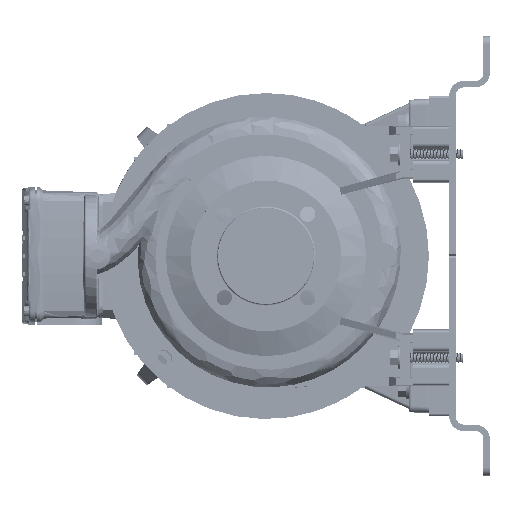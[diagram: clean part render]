
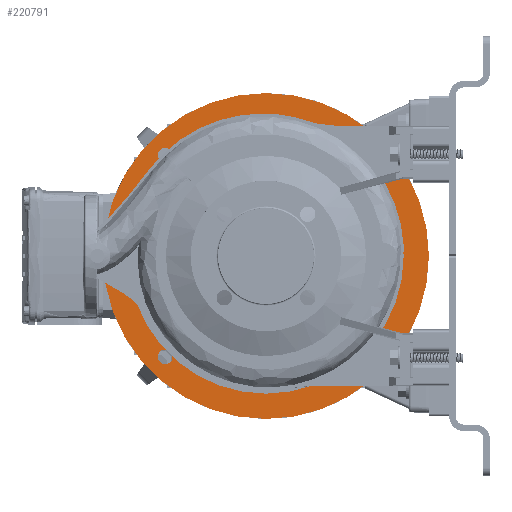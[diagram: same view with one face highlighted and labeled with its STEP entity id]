
A CAD part, left-side view. The second image highlights one B-rep face of the part: STEP entity #220791.
In plain terms, the highlighted planar face has unit normal (-1, 0, 0).
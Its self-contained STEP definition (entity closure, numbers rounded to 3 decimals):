
#1022 = AXIS2_PLACEMENT_3D ( 'NONE', #192139, #116788, #284813 ) ;
#3129 = DIRECTION ( 'NONE',  ( 1., 0., 0. ) ) ;
#4932 = FACE_BOUND ( 'NONE', #30768, .T. ) ;
#5087 = ORIENTED_EDGE ( 'NONE', *, *, #80711, .T. ) ;
#9362 = DIRECTION ( 'NONE',  ( 0., 0., 1. ) ) ;
#12374 = CARTESIAN_POINT ( 'NONE',  ( 211.876, 364.773, 524.102 ) ) ;
#15706 = EDGE_CURVE ( 'NONE', #71451, #69587, #161643, .T. ) ;
#17972 = VERTEX_POINT ( 'NONE', #273223 ) ;
#18508 = DIRECTION ( 'NONE',  ( 0., 0., 1. ) ) ;
#21622 = VERTEX_POINT ( 'NONE', #207039 ) ;
#21660 = DIRECTION ( 'NONE',  ( 1., 0., 0. ) ) ;
#23827 = CIRCLE ( 'NONE', #309884, 152.679 ) ;
#24048 = DIRECTION ( 'NONE',  ( 0., 0., -1. ) ) ;
#27854 = CIRCLE ( 'NONE', #243651, 23.5 ) ;
#30029 = FACE_BOUND ( 'NONE', #100994, .T. ) ;
#30768 = EDGE_LOOP ( 'NONE', ( #137479, #131611 ) ) ;
#36581 = DIRECTION ( 'NONE',  ( 1., 0., 0. ) ) ;
#36872 = DIRECTION ( 'NONE',  ( 0., 0., -1. ) ) ;
#41800 = AXIS2_PLACEMENT_3D ( 'NONE', #305195, #135617, #66327 ) ;
#42110 = DIRECTION ( 'NONE',  ( 0., 0., 1. ) ) ;
#44898 = AXIS2_PLACEMENT_3D ( 'NONE', #286791, #272164, #105580 ) ;
#48770 = AXIS2_PLACEMENT_3D ( 'NONE', #115246, #128454, #85496 ) ;
#53609 = CARTESIAN_POINT ( 'NONE',  ( 211.876, 441.029, 400.358 ) ) ;
#55360 = VERTEX_POINT ( 'NONE', #76317 ) ;
#62270 = EDGE_CURVE ( 'NONE', #103247, #79908, #187471, .T. ) ;
#66327 = DIRECTION ( 'NONE',  ( 0., 0., 1. ) ) ;
#68162 = CARTESIAN_POINT ( 'NONE',  ( 211.876, 241.029, 400.358 ) ) ;
#69587 = VERTEX_POINT ( 'NONE', #79582 ) ;
#70222 = CARTESIAN_POINT ( 'NONE',  ( 211.876, 364.773, 533.102 ) ) ;
#71245 = CARTESIAN_POINT ( 'NONE',  ( 211.876, 117.285, 267.614 ) ) ;
#71451 = VERTEX_POINT ( 'NONE', #90073 ) ;
#76317 = CARTESIAN_POINT ( 'NONE',  ( 211.876, 241.029, 600.358 ) ) ;
#79582 = CARTESIAN_POINT ( 'NONE',  ( 211.876, 241.029, 553.038 ) ) ;
#79908 = VERTEX_POINT ( 'NONE', #210338 ) ;
#80041 = CARTESIAN_POINT ( 'NONE',  ( 211.876, 117.285, 276.614 ) ) ;
#80105 = DIRECTION ( 'NONE',  ( 1., 0., 0. ) ) ;
#80711 = EDGE_CURVE ( 'NONE', #69587, #17972, #23827, .T. ) ;
#84985 = ORIENTED_EDGE ( 'NONE', *, *, #152310, .T. ) ;
#85496 = DIRECTION ( 'NONE',  ( 0., 0., -1. ) ) ;
#86581 = EDGE_CURVE ( 'NONE', #133944, #194053, #191169, .T. ) ;
#90073 = CARTESIAN_POINT ( 'NONE',  ( 211.876, 241.029, 247.679 ) ) ;
#90159 = EDGE_CURVE ( 'NONE', #21622, #71451, #257781, .T. ) ;
#96620 = EDGE_CURVE ( 'NONE', #17972, #21622, #27854, .T. ) ;
#98243 = CARTESIAN_POINT ( 'NONE',  ( 211.876, 117.285, 515.102 ) ) ;
#100994 = EDGE_LOOP ( 'NONE', ( #116116, #84985 ) ) ;
#102083 = DIRECTION ( 'NONE',  ( 0., 0., 1. ) ) ;
#102492 = DIRECTION ( 'NONE',  ( 0., 0., 1. ) ) ;
#103247 = VERTEX_POINT ( 'NONE', #301316 ) ;
#103790 = EDGE_LOOP ( 'NONE', ( #257280, #230078 ) ) ;
#105580 = DIRECTION ( 'NONE',  ( 0., 0., 1. ) ) ;
#107243 = AXIS2_PLACEMENT_3D ( 'NONE', #251867, #36581, #138720 ) ;
#108237 = DIRECTION ( 'NONE',  ( 1., 0., 0. ) ) ;
#109111 = AXIS2_PLACEMENT_3D ( 'NONE', #243550, #80105, #9362 ) ;
#114753 = CARTESIAN_POINT ( 'NONE',  ( 211.876, 117.285, 285.614 ) ) ;
#115246 = CARTESIAN_POINT ( 'NONE',  ( 211.876, 241.029, 400.358 ) ) ;
#116002 = DIRECTION ( 'NONE',  ( 1., 0., 0. ) ) ;
#116116 = ORIENTED_EDGE ( 'NONE', *, *, #62270, .T. ) ;
#116788 = DIRECTION ( 'NONE',  ( 1., 0., 0. ) ) ;
#117536 = CARTESIAN_POINT ( 'NONE',  ( 211.876, 364.773, 524.102 ) ) ;
#125974 = VERTEX_POINT ( 'NONE', #98243 ) ;
#128454 = DIRECTION ( 'NONE',  ( 1., 0., 0. ) ) ;
#128992 = EDGE_CURVE ( 'NONE', #279965, #55360, #134135, .T. ) ;
#129727 = EDGE_CURVE ( 'NONE', #125974, #203979, #229611, .T. ) ;
#131611 = ORIENTED_EDGE ( 'NONE', *, *, #214944, .T. ) ;
#132290 = CARTESIAN_POINT ( 'NONE',  ( 211.876, 106.031, 400.358 ) ) ;
#133944 = VERTEX_POINT ( 'NONE', #71245 ) ;
#134135 = CIRCLE ( 'NONE', #48770, 200. ) ;
#134582 = ORIENTED_EDGE ( 'NONE', *, *, #185174, .F. ) ;
#135388 = DIRECTION ( 'NONE',  ( 1., 0., 0. ) ) ;
#135617 = DIRECTION ( 'NONE',  ( 1., 0., 0. ) ) ;
#137479 = ORIENTED_EDGE ( 'NONE', *, *, #86581, .T. ) ;
#138092 = CARTESIAN_POINT ( 'NONE',  ( 211.876, 117.285, 533.102 ) ) ;
#138495 = CIRCLE ( 'NONE', #238835, 200. ) ;
#138720 = DIRECTION ( 'NONE',  ( 0., 0., -1. ) ) ;
#143412 = AXIS2_PLACEMENT_3D ( 'NONE', #144247, #21660, #42110 ) ;
#144247 = CARTESIAN_POINT ( 'NONE',  ( 211.876, 117.285, 524.102 ) ) ;
#144896 = FACE_BOUND ( 'NONE', #163367, .T. ) ;
#151109 = DIRECTION ( 'NONE',  ( 0., 0., 1. ) ) ;
#152310 = EDGE_CURVE ( 'NONE', #79908, #103247, #180481, .T. ) ;
#152748 = DIRECTION ( 'NONE',  ( 0., 0., 1. ) ) ;
#154978 = ORIENTED_EDGE ( 'NONE', *, *, #288967, .T. ) ;
#156617 = CARTESIAN_POINT ( 'NONE',  ( 211.876, 241.029, 200.358 ) ) ;
#157509 = CARTESIAN_POINT ( 'NONE',  ( 211.876, 364.773, 515.102 ) ) ;
#161124 = AXIS2_PLACEMENT_3D ( 'NONE', #196825, #198361, #102492 ) ;
#161643 = CIRCLE ( 'NONE', #1022, 152.679 ) ;
#162328 = AXIS2_PLACEMENT_3D ( 'NONE', #117536, #116002, #236930 ) ;
#163367 = EDGE_LOOP ( 'NONE', ( #215337, #154978 ) ) ;
#165726 = EDGE_LOOP ( 'NONE', ( #307675, #134582 ) ) ;
#166554 = AXIS2_PLACEMENT_3D ( 'NONE', #12374, #108237, #18508 ) ;
#180481 = CIRCLE ( 'NONE', #44898, 9. ) ;
#185174 = EDGE_CURVE ( 'NONE', #55360, #279965, #138495, .T. ) ;
#187471 = CIRCLE ( 'NONE', #41800, 9. ) ;
#191169 = CIRCLE ( 'NONE', #161124, 9. ) ;
#192139 = CARTESIAN_POINT ( 'NONE',  ( 211.876, 241.029, 400.358 ) ) ;
#194053 = VERTEX_POINT ( 'NONE', #114753 ) ;
#196825 = CARTESIAN_POINT ( 'NONE',  ( 211.876, 117.285, 276.614 ) ) ;
#198214 = PLANE ( 'NONE',  #296191 ) ;
#198361 = DIRECTION ( 'NONE',  ( 1., 0., 0. ) ) ;
#203979 = VERTEX_POINT ( 'NONE', #138092 ) ;
#207039 = CARTESIAN_POINT ( 'NONE',  ( 211.876, 89.237, 383.92 ) ) ;
#208398 = ORIENTED_EDGE ( 'NONE', *, *, #90159, .T. ) ;
#210338 = CARTESIAN_POINT ( 'NONE',  ( 211.876, 364.773, 285.614 ) ) ;
#213588 = CIRCLE ( 'NONE', #143412, 9. ) ;
#214944 = EDGE_CURVE ( 'NONE', #194053, #133944, #294475, .T. ) ;
#215337 = ORIENTED_EDGE ( 'NONE', *, *, #235595, .T. ) ;
#217881 = EDGE_LOOP ( 'NONE', ( #208398, #229097, #5087, #296566 ) ) ;
#220230 = FACE_BOUND ( 'NONE', #103790, .T. ) ;
#220791 = ADVANCED_FACE ( 'NONE', ( #245286, #30029, #144896, #220230, #4932, #268915 ), #198214, .T. ) ;
#222414 = CARTESIAN_POINT ( 'NONE',  ( 211.876, 241.029, 400.358 ) ) ;
#222461 = CIRCLE ( 'NONE', #162328, 9. ) ;
#225142 = VERTEX_POINT ( 'NONE', #157509 ) ;
#229097 = ORIENTED_EDGE ( 'NONE', *, *, #15706, .T. ) ;
#229611 = CIRCLE ( 'NONE', #109111, 9. ) ;
#230078 = ORIENTED_EDGE ( 'NONE', *, *, #295218, .T. ) ;
#235595 = EDGE_CURVE ( 'NONE', #225142, #264719, #222461, .T. ) ;
#236930 = DIRECTION ( 'NONE',  ( 0., 0., 1. ) ) ;
#238835 = AXIS2_PLACEMENT_3D ( 'NONE', #222414, #252152, #36872 ) ;
#239220 = AXIS2_PLACEMENT_3D ( 'NONE', #80041, #3129, #102083 ) ;
#243550 = CARTESIAN_POINT ( 'NONE',  ( 211.876, 117.285, 524.102 ) ) ;
#243651 = AXIS2_PLACEMENT_3D ( 'NONE', #132290, #135388, #152748 ) ;
#245286 = FACE_OUTER_BOUND ( 'NONE', #165726, .T. ) ;
#251867 = CARTESIAN_POINT ( 'NONE',  ( 211.876, 241.029, 400.358 ) ) ;
#252152 = DIRECTION ( 'NONE',  ( 1., 0., 0. ) ) ;
#257280 = ORIENTED_EDGE ( 'NONE', *, *, #129727, .T. ) ;
#257781 = CIRCLE ( 'NONE', #107243, 152.679 ) ;
#262928 = DIRECTION ( 'NONE',  ( 1., 0., 0. ) ) ;
#264719 = VERTEX_POINT ( 'NONE', #70222 ) ;
#268915 = FACE_BOUND ( 'NONE', #217881, .T. ) ;
#270440 = DIRECTION ( 'NONE',  ( -1., 0., 0. ) ) ;
#272164 = DIRECTION ( 'NONE',  ( 1., 0., 0. ) ) ;
#273223 = CARTESIAN_POINT ( 'NONE',  ( 211.876, 89.237, 416.796 ) ) ;
#279965 = VERTEX_POINT ( 'NONE', #156617 ) ;
#284813 = DIRECTION ( 'NONE',  ( 0., 0., -1. ) ) ;
#286791 = CARTESIAN_POINT ( 'NONE',  ( 211.876, 364.773, 276.614 ) ) ;
#288967 = EDGE_CURVE ( 'NONE', #264719, #225142, #302035, .T. ) ;
#294475 = CIRCLE ( 'NONE', #239220, 9. ) ;
#295218 = EDGE_CURVE ( 'NONE', #203979, #125974, #213588, .T. ) ;
#296191 = AXIS2_PLACEMENT_3D ( 'NONE', #53609, #270440, #151109 ) ;
#296566 = ORIENTED_EDGE ( 'NONE', *, *, #96620, .T. ) ;
#301316 = CARTESIAN_POINT ( 'NONE',  ( 211.876, 364.773, 267.614 ) ) ;
#302035 = CIRCLE ( 'NONE', #166554, 9. ) ;
#305195 = CARTESIAN_POINT ( 'NONE',  ( 211.876, 364.773, 276.614 ) ) ;
#307675 = ORIENTED_EDGE ( 'NONE', *, *, #128992, .F. ) ;
#309884 = AXIS2_PLACEMENT_3D ( 'NONE', #68162, #262928, #24048 ) ;
